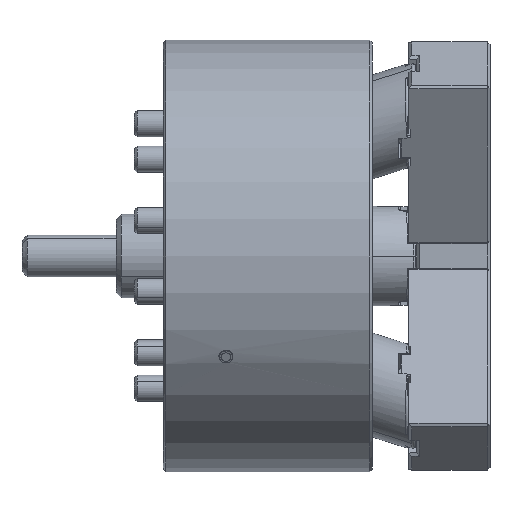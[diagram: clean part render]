
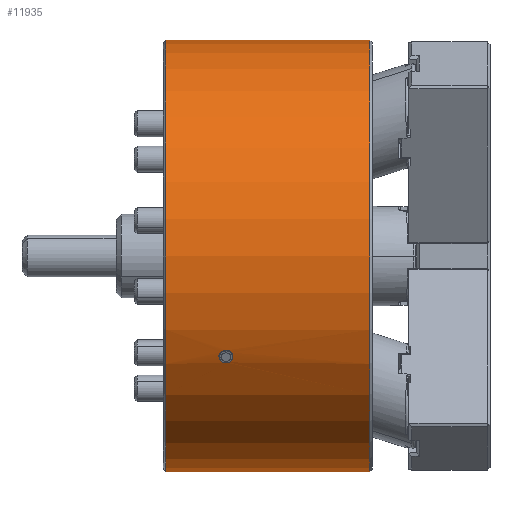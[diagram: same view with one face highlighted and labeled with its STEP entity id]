
A CAD part, front view. The second image highlights one B-rep face of the part: STEP entity #11935.
In plain terms, the highlighted cylindrical face has radius 82.5 mm (diameter 165 mm), a partial arc.
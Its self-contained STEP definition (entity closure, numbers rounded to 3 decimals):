
#89 = CARTESIAN_POINT ( 'NONE',  ( 63.843, 0., 82.5 ) ) ;
#108 = AXIS2_PLACEMENT_3D ( 'NONE', #29550, #11233, #32637 ) ;
#301 = DIRECTION ( 'NONE',  ( 1., 0., 0. ) ) ;
#1074 = CARTESIAN_POINT ( 'NONE',  ( -58.59, -72.58, -39.224 ) ) ;
#1202 = CARTESIAN_POINT ( 'NONE',  ( -55.32, -71.687, -40.832 ) ) ;
#1952 = VERTEX_POINT ( 'NONE', #38473 ) ;
#2106 = VERTEX_POINT ( 'NONE', #5474 ) ;
#2280 = EDGE_LOOP ( 'NONE', ( #10095, #13490, #35045, #23179 ) ) ;
#2672 = CARTESIAN_POINT ( 'NONE',  ( -53.778, -73.716, -37.043 ) ) ;
#2684 = DIRECTION ( 'NONE',  ( 1., 0., 0. ) ) ;
#2804 = CARTESIAN_POINT ( 'NONE',  ( -56.916, -74.177, -36.11 ) ) ;
#3917 = EDGE_CURVE ( 'NONE', #1952, #27232, #5757, .T. ) ;
#4165 = CARTESIAN_POINT ( 'NONE',  ( -58.108, -72.14, -40.027 ) ) ;
#4230 = ORIENTED_EDGE ( 'NONE', *, *, #30218, .F. ) ;
#4292 = CARTESIAN_POINT ( 'NONE',  ( -54.678, -71.809, -40.617 ) ) ;
#5300 = CARTESIAN_POINT ( 'NONE',  ( -53.305, -72.9, -38.625 ) ) ;
#5474 = CARTESIAN_POINT ( 'NONE',  ( -79., 0., -82.5 ) ) ;
#5736 = CARTESIAN_POINT ( 'NONE',  ( -54.138, -73.91, -36.654 ) ) ;
#5757 = CIRCLE ( 'NONE', #9633, 82.5 ) ;
#5871 = FACE_OUTER_BOUND ( 'NONE', #2280, .T. ) ;
#5881 = CARTESIAN_POINT ( 'NONE',  ( -57.736, -73.974, -36.527 ) ) ;
#7210 = CARTESIAN_POINT ( 'NONE',  ( -57.604, -71.91, -40.438 ) ) ;
#7354 = CARTESIAN_POINT ( 'NONE',  ( -54.017, -72.08, -40.134 ) ) ;
#8808 = CARTESIAN_POINT ( 'NONE',  ( -54.575, -74.065, -36.34 ) ) ;
#8897 = CARTESIAN_POINT ( 'NONE',  ( 63.843, 0., 0. ) ) ;
#8945 = CARTESIAN_POINT ( 'NONE',  ( -58.219, -73.718, -37.04 ) ) ;
#9633 = AXIS2_PLACEMENT_3D ( 'NONE', #18555, #301, #21672 ) ;
#10095 = ORIENTED_EDGE ( 'NONE', *, *, #27774, .F. ) ;
#10291 = CARTESIAN_POINT ( 'NONE',  ( -57.165, -71.777, -40.674 ) ) ;
#10424 = CARTESIAN_POINT ( 'NONE',  ( -53.708, -72.282, -39.77 ) ) ;
#11233 = DIRECTION ( 'NONE',  ( 1., 0., 0. ) ) ;
#11448 = EDGE_CURVE ( 'NONE', #38111, #37962, #37246, .T. ) ;
#11731 = CARTESIAN_POINT ( 'NONE',  ( -53.294, -72.988, -38.459 ) ) ;
#11818 = ORIENTED_EDGE ( 'NONE', *, *, #11448, .F. ) ;
#11863 = CARTESIAN_POINT ( 'NONE',  ( -55.078, -74.176, -36.113 ) ) ;
#11935 = ADVANCED_FACE ( 'NONE', ( #5871, #30264 ), #13014, .T. ) ;
#11997 = CARTESIAN_POINT ( 'NONE',  ( -58.486, -73.493, -37.483 ) ) ;
#13014 = CYLINDRICAL_SURFACE ( 'NONE', #38997, 82.5 ) ;
#13357 = CARTESIAN_POINT ( 'NONE',  ( -56.682, -71.687, -40.831 ) ) ;
#13487 = CARTESIAN_POINT ( 'NONE',  ( -53.482, -72.503, -39.364 ) ) ;
#13490 = ORIENTED_EDGE ( 'NONE', *, *, #34583, .T. ) ;
#14779 = CIRCLE ( 'NONE', #108, 82.5 ) ;
#14794 = CARTESIAN_POINT ( 'NONE',  ( -53.3, -73.076, -38.291 ) ) ;
#14937 = CARTESIAN_POINT ( 'NONE',  ( -55.624, -74.238, -35.985 ) ) ;
#15071 = CARTESIAN_POINT ( 'NONE',  ( -58.718, -73.076, -38.292 ) ) ;
#15291 = DIRECTION ( 'NONE',  ( 1., 0., 0. ) ) ;
#16414 = CARTESIAN_POINT ( 'NONE',  ( -56.172, -71.645, -40.905 ) ) ;
#16559 = CARTESIAN_POINT ( 'NONE',  ( -53.342, -72.74, -38.926 ) ) ;
#17874 = CARTESIAN_POINT ( 'NONE',  ( -53.392, -73.33, -37.801 ) ) ;
#18005 = CARTESIAN_POINT ( 'NONE',  ( -56.183, -74.247, -35.967 ) ) ;
#18278 = CARTESIAN_POINT ( 'NONE',  ( -1., 0., -82.5 ) ) ;
#18555 = CARTESIAN_POINT ( 'NONE',  ( -1., 0., 0. ) ) ;
#19082 = CARTESIAN_POINT ( 'NONE',  ( -58.695, -72.9, -38.625 ) ) ;
#19449 = LINE ( 'NONE', #89, #26615 ) ;
#19482 = VERTEX_POINT ( 'NONE', #32301 ) ;
#19491 = CARTESIAN_POINT ( 'NONE',  ( -55.658, -71.654, -40.89 ) ) ;
#19627 = CARTESIAN_POINT ( 'NONE',  ( -53.305, -72.9, -38.625 ) ) ;
#20965 = CARTESIAN_POINT ( 'NONE',  ( -53.591, -73.571, -37.331 ) ) ;
#21095 = CARTESIAN_POINT ( 'NONE',  ( -56.739, -74.203, -36.057 ) ) ;
#21672 = DIRECTION ( 'NONE',  ( 0., 0., -1. ) ) ;
#22446 = CARTESIAN_POINT ( 'NONE',  ( -58.305, -72.277, -39.779 ) ) ;
#22552 = CARTESIAN_POINT ( 'NONE',  ( -58.695, -72.9, -38.625 ) ) ;
#22581 = CARTESIAN_POINT ( 'NONE',  ( -55.153, -71.712, -40.788 ) ) ;
#23179 = ORIENTED_EDGE ( 'NONE', *, *, #3917, .F. ) ;
#24030 = CARTESIAN_POINT ( 'NONE',  ( -53.889, -73.785, -36.905 ) ) ;
#24040 = CARTESIAN_POINT ( 'NONE',  ( 63.843, 0., -82.5 ) ) ;
#24162 = CARTESIAN_POINT ( 'NONE',  ( -57.429, -74.074, -36.321 ) ) ;
#25512 = CARTESIAN_POINT ( 'NONE',  ( -57.737, -71.963, -40.344 ) ) ;
#25645 = CARTESIAN_POINT ( 'NONE',  ( -54.385, -71.905, -40.448 ) ) ;
#26615 = VECTOR ( 'NONE', #15291, 1000. ) ;
#27106 = CARTESIAN_POINT ( 'NONE',  ( -54.275, -73.966, -36.541 ) ) ;
#27224 = CARTESIAN_POINT ( 'NONE',  ( -58.11, -73.786, -36.904 ) ) ;
#27232 = VERTEX_POINT ( 'NONE', #18278 ) ;
#27315 = DIRECTION ( 'NONE',  ( 1., 0., 0. ) ) ;
#27774 = EDGE_CURVE ( 'NONE', #19482, #1952, #19449, .T. ) ;
#28581 = CARTESIAN_POINT ( 'NONE',  ( -57.318, -71.817, -40.602 ) ) ;
#28718 = CARTESIAN_POINT ( 'NONE',  ( -53.904, -72.145, -40.017 ) ) ;
#29550 = CARTESIAN_POINT ( 'NONE',  ( -79., 0., 0. ) ) ;
#30206 = CARTESIAN_POINT ( 'NONE',  ( -54.739, -74.108, -36.253 ) ) ;
#30218 = EDGE_CURVE ( 'NONE', #37962, #38111, #32745, .T. ) ;
#30264 = FACE_BOUND ( 'NONE', #39322, .T. ) ;
#30344 = CARTESIAN_POINT ( 'NONE',  ( -58.408, -73.572, -37.329 ) ) ;
#30425 = DIRECTION ( 'NONE',  ( 0., 0., -1. ) ) ;
#31149 = LINE ( 'NONE', #24040, #33053 ) ;
#31715 = CARTESIAN_POINT ( 'NONE',  ( -56.846, -71.712, -40.788 ) ) ;
#31844 = CARTESIAN_POINT ( 'NONE',  ( -53.623, -72.353, -39.639 ) ) ;
#32301 = CARTESIAN_POINT ( 'NONE',  ( -79., 0., 82.5 ) ) ;
#32637 = DIRECTION ( 'NONE',  ( 0., 0., -1. ) ) ;
#32745 = B_SPLINE_CURVE_WITH_KNOTS ( 'NONE', 3,
 ( #19082, #34484, #1074, #22446, #4165, #25512, #7210, #28581, #10291, #31715, #13357, #34743, #16414, #37822, #19491, #1202, #22581, #4292, #25645, #7354, #28718, #10424, #31844, #13487, #34870, #16559, #37960, #19627 ),
 .UNSPECIFIED., .F., .F.,
 ( 4, 2, 2, 2, 2, 2, 2, 2, 2, 2, 2, 2, 2, 4 ),
 ( 0.017, 0.018, 0.019, 0.02, 0.02, 0.021, 0.021, 0.022, 0.022, 0.023, 0.024, 0.024, 0.025, 0.025 ),
 .UNSPECIFIED. ) ;
#33053 = VECTOR ( 'NONE', #2684, 1000. ) ;
#33154 = CARTESIAN_POINT ( 'NONE',  ( -53.305, -72.9, -38.625 ) ) ;
#33281 = CARTESIAN_POINT ( 'NONE',  ( -55.255, -74.203, -36.059 ) ) ;
#33406 = CARTESIAN_POINT ( 'NONE',  ( -58.667, -73.251, -37.955 ) ) ;
#34484 = CARTESIAN_POINT ( 'NONE',  ( -58.673, -72.738, -38.93 ) ) ;
#34583 = EDGE_CURVE ( 'NONE', #19482, #2106, #14779, .T. ) ;
#34743 = CARTESIAN_POINT ( 'NONE',  ( -56.346, -71.654, -40.89 ) ) ;
#34870 = CARTESIAN_POINT ( 'NONE',  ( -53.425, -72.582, -39.219 ) ) ;
#35045 = ORIENTED_EDGE ( 'NONE', *, *, #38838, .T. ) ;
#36218 = CARTESIAN_POINT ( 'NONE',  ( -53.35, -73.247, -37.963 ) ) ;
#36350 = CARTESIAN_POINT ( 'NONE',  ( -55.81, -74.247, -35.967 ) ) ;
#36494 = CARTESIAN_POINT ( 'NONE',  ( -58.695, -72.9, -38.625 ) ) ;
#37246 = B_SPLINE_CURVE_WITH_KNOTS ( 'NONE', 3,
 ( #33154, #11731, #14794, #36218, #17874, #39278, #20965, #2672, #24030, #5736, #27106, #8808, #30206, #11863, #33281, #14937, #36350, #18005, #39411, #21095, #2804, #24162, #5881, #27224, #8945, #30344, #11997, #33406, #15071, #36494 ),
 .UNSPECIFIED., .F., .F.,
 ( 4, 2, 2, 2, 2, 2, 2, 2, 2, 2, 2, 2, 2, 2, 4 ),
 ( 0.008, 0.009, 0.009, 0.01, 0.01, 0.011, 0.011, 0.012, 0.013, 0.013, 0.014, 0.015, 0.015, 0.016, 0.017 ),
 .UNSPECIFIED. ) ;
#37822 = CARTESIAN_POINT ( 'NONE',  ( -55.829, -71.645, -40.905 ) ) ;
#37960 = CARTESIAN_POINT ( 'NONE',  ( -53.316, -72.819, -38.777 ) ) ;
#37962 = VERTEX_POINT ( 'NONE', #22552 ) ;
#38111 = VERTEX_POINT ( 'NONE', #5300 ) ;
#38473 = CARTESIAN_POINT ( 'NONE',  ( -1., 0., 82.5 ) ) ;
#38838 = EDGE_CURVE ( 'NONE', #2106, #27232, #31149, .T. ) ;
#38997 = AXIS2_PLACEMENT_3D ( 'NONE', #8897, #27315, #30425 ) ;
#39278 = CARTESIAN_POINT ( 'NONE',  ( -53.514, -73.494, -37.483 ) ) ;
#39322 = EDGE_LOOP ( 'NONE', ( #4230, #11818 ) ) ;
#39411 = CARTESIAN_POINT ( 'NONE',  ( -56.373, -74.238, -35.985 ) ) ;
